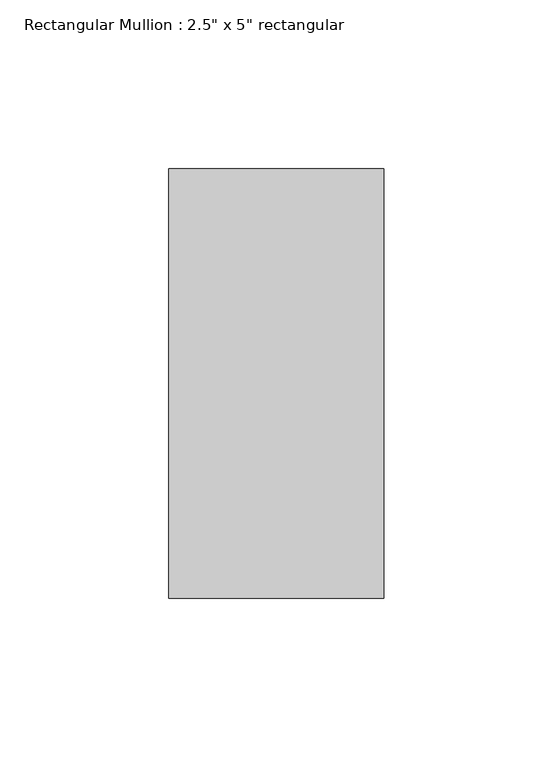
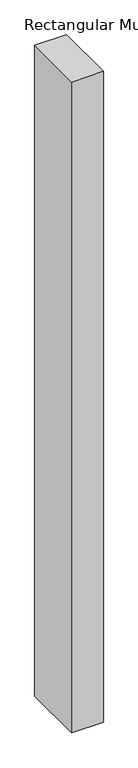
"""IFC4 building model written with IfcOpenShell, lengths in millimetres: member geometry."""

from ifc_helpers import new_model, si_unit, frame, origin, place, context, project, spatial, polyline, outline, extrude, source, transform, mapped, element, save


def member_08a74848(model_context):
    return source(origin(), model_context, "Body", "SweptSolid", [
        extrude(outline(polyline([(31.75, 63.5), (31.75, -63.5), (-31.75, -63.5), (-31.75, 63.5), (31.75, 63.5)])), frame((0.0, 0.0, -1371.5999998), z_axis=(0.0, 0.0, 1.0), x_axis=(1.0, 0.0, 0.0)), (0.0, 0.0, 1.0), 1371.5999998),
    ])


if __name__ == "__main__":
    model = new_model("IFC4")
    model_context = context("Model", 3, world=origin())
    ifc_project = project(units=[si_unit("LENGTHUNIT", "METRE", prefix="MILLI")], contexts=[model_context])
    site = spatial("IfcSite", under=ifc_project)
    building = spatial("IfcBuilding", under=site)
    placement = place(None, origin())
    member_shape = member_08a74848(model_context)
    element("IfcMember", 1, ObjectType="Rectangular Mullion : 2.5\" x 5\" rectangular", at=placement, inside=building, context=model_context, shape_type="MappedRepresentation", body=[
        mapped(member_shape, transform((0.0, 0.0, 0.0), x_axis=(1.0, 0.0, 0.0), y_axis=(0.0, 1.0, 0.0), z_axis=(0.0, 0.0, 1.0))),
    ])
    save(model, "model.ifc")
